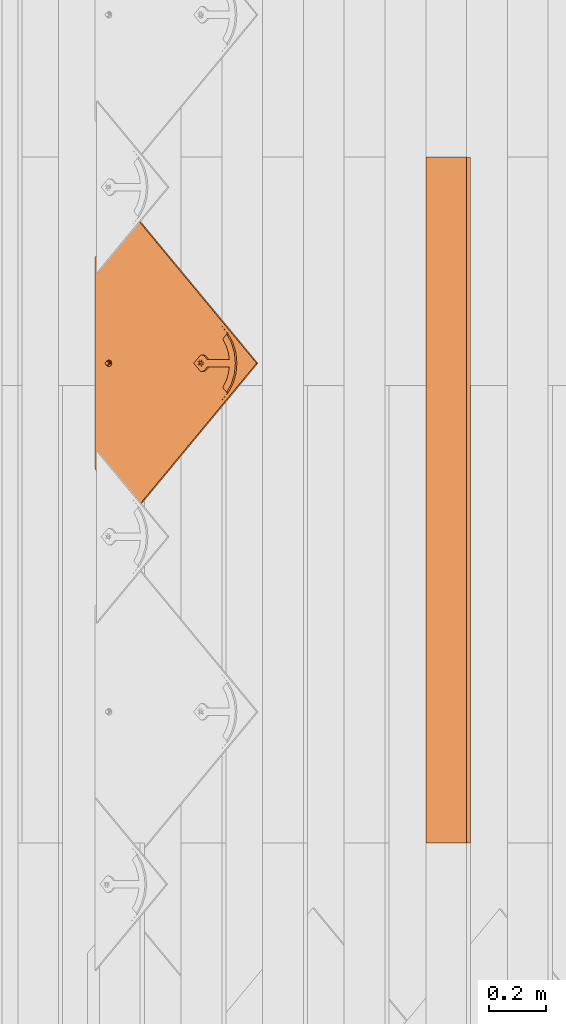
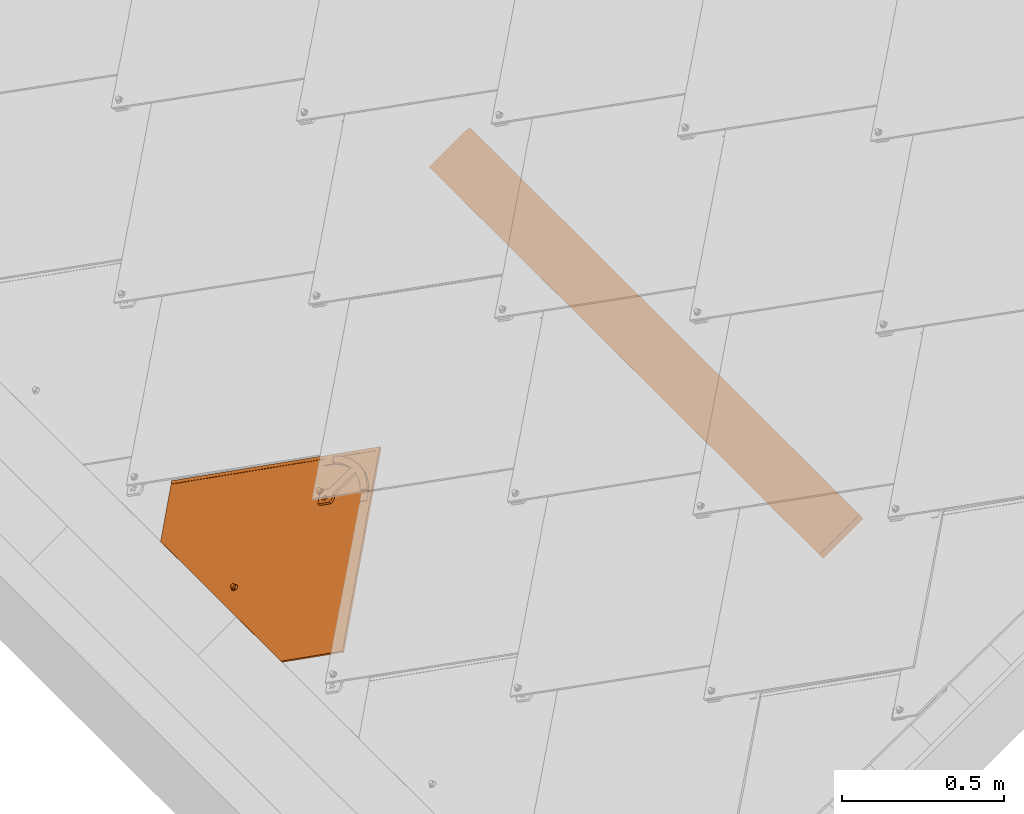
# One storey, part 20 of 133: 2 proxies, 1 element without a shape of its own.
"""IFC2X3 building model written with IfcOpenShell, lengths in millimetres."""

from ifc_helpers import new_model, entity, si_unit, converted_unit, derived_unit, direction, frame, frame_2d, origin, place, context, subcontext, project, spatial, rectangle, extrude, faceted_brep, source, transform, mapped, material, material_list, type_object, type_shapes, element, aggregate, save


model = new_model("IFC2X3")

# Units and contexts
model_context = context("Model", 3, precision=0.01, world=origin(), true_north=direction((6.12303176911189e-17, 1.0)))
body_context = subcontext(model_context, "Body", "Model", "MODEL_VIEW")
ifc_project = project(units=[si_unit("LENGTHUNIT", "METRE", prefix="MILLI"), si_unit("AREAUNIT", "SQUARE_METRE"), si_unit("VOLUMEUNIT", "CUBIC_METRE"), converted_unit("PLANEANGLEUNIT", "DEGREE", entity("IfcRatioMeasure", 0.0174532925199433), si_unit("PLANEANGLEUNIT", "RADIAN"), dimensions=[0, 0, 0, 0, 0, 0, 0]), si_unit("MASSUNIT", "GRAM", prefix="KILO"), derived_unit("MASSDENSITYUNIT", [(si_unit("MASSUNIT", "GRAM", prefix="KILO"), 1), (si_unit("LENGTHUNIT", "METRE"), -3)]), si_unit("TIMEUNIT", "SECOND"), si_unit("FREQUENCYUNIT", "HERTZ"), si_unit("THERMODYNAMICTEMPERATUREUNIT", "DEGREE_CELSIUS"), derived_unit("THERMALTRANSMITTANCEUNIT", [(si_unit("MASSUNIT", "GRAM", prefix="KILO"), 1), (si_unit("THERMODYNAMICTEMPERATUREUNIT", "KELVIN"), -1), (si_unit("TIMEUNIT", "SECOND"), -3)]), derived_unit("VOLUMETRICFLOWRATEUNIT", [(si_unit("LENGTHUNIT", "METRE"), 3), (si_unit("TIMEUNIT", "SECOND"), -1)]), si_unit("ELECTRICCURRENTUNIT", "AMPERE"), si_unit("ELECTRICVOLTAGEUNIT", "VOLT"), si_unit("POWERUNIT", "WATT"), si_unit("FORCEUNIT", "NEWTON", prefix="KILO"), si_unit("ILLUMINANCEUNIT", "LUX"), si_unit("LUMINOUSFLUXUNIT", "LUMEN"), si_unit("LUMINOUSINTENSITYUNIT", "CANDELA"), derived_unit("USERDEFINED", [(si_unit("MASSUNIT", "GRAM", prefix="KILO"), -1), (si_unit("LENGTHUNIT", "METRE"), -2), (si_unit("TIMEUNIT", "SECOND"), 3), (si_unit("LUMINOUSFLUXUNIT", "LUMEN"), 1)]), derived_unit("LINEARVELOCITYUNIT", [(si_unit("LENGTHUNIT", "METRE"), 1), (si_unit("TIMEUNIT", "SECOND"), -1)]), si_unit("PRESSUREUNIT", "PASCAL"), derived_unit("USERDEFINED", [(si_unit("LENGTHUNIT", "METRE"), -2), (si_unit("MASSUNIT", "GRAM", prefix="KILO"), 1), (si_unit("TIMEUNIT", "SECOND"), -2)])], contexts=[model_context])

# Site, building, storey
site_placement = place(None, origin())
site = spatial("IfcSite", under=ifc_project, at=site_placement, Name="Default", CompositionType="ELEMENT")
building_placement = place(site_placement, origin())
building = spatial("IfcBuilding", under=site, at=building_placement, CompositionType="ELEMENT")
storey_placement = place(building_placement, origin())
storey = spatial("IfcBuildingStorey", under=building, at=storey_placement, Name="Level 1", CompositionType="ELEMENT", Elevation=0.0)

# Assembly, proxy
assembly_placement = place(storey_placement, origin())
assembly = element("IfcElementAssembly", 1, at=assembly_placement, inside=storey, Name="Structural Framing Assembly:Roof Construction Assembly", ObjectType="Structural Framing Assembly:Roof Construction Assembly", AssemblyPlace="NOTDEFINED", PredefinedType="USERDEFINED")
ifc_material_1 = material(Name="Wood - Generic - Wood For Showcase")
building_element_proxy_type_1 = type_object("IfcBuildingElementProxyType", Name="Structural Framing 15", PredefinedType="NOTDEFINED", material=ifc_material_1)
shared_shape_1 = source(origin(), body_context, "Body", "SweptSolid", [
    extrude(rectangle(XDim=24.9999999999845, YDim=174.344679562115, at=frame_2d((-1.77635683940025e-13, -4.54747350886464e-13), x_axis=(0.0, 1.0))), frame((1128.20180147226, 1525.55080214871, 2760.23940055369), z_axis=(0.0, 1.0, 0.0), x_axis=(-0.819152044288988, 0.0, -0.573576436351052)), (0.0, 0.0, 1.0), 2400.0),
])
type_shapes(building_element_proxy_type_1, [shared_shape_1])
proxy_1_placement = place(assembly_placement, frame((-2285.03681078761, -7270.0, -1600.0)))
proxy_1 = element("IfcBuildingElementProxy", 2, at=proxy_1_placement, type_object=building_element_proxy_type_1, material=ifc_material_1, Name="Structural Framing 98:Structural Framing 15", ObjectType="Structural Framing 98:Structural Framing 15", context=body_context, shape_type="MappedRepresentation", body=[
    mapped(shared_shape_1, transform((0.0, 0.0, 0.0), scale=1.0)),
])
aggregate(assembly, [proxy_1])

# Proxy
ifc_material_2 = material(Name="Rubber - Sunstyle - Black")
ifc_material_3 = material(Name="Glass - Sunstyle - Tainted Black")
ifc_material_list_1 = material_list([ifc_material_2, ifc_material_3])
ifc_material_list_2 = material_list([ifc_material_2, ifc_material_3])
building_element_proxy_type_2 = type_object("IfcBuildingElementProxyType", Name="Shingle Bottom - Black", PredefinedType="NOTDEFINED", material=ifc_material_list_2)
shared_shape_2 = source(origin(), body_context, "Body", "Brep", [
    faceted_brep([(0.0, -1.79273515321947, -4.01619789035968), (-5.7742028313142, -5.12600528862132, -3.96037390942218), (-5.77420283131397, -4.75769619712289, 18.0314954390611), (0.0, -1.42442606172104, 17.9756714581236), (-5.77420283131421, -11.792545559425, -3.84872594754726), (-5.77420283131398, -11.4242364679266, 18.143143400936), (0.0, -15.1258156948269, -3.79290196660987), (0.0, -14.7575066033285, 18.1989673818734), (5.77420283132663, -11.7925455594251, -3.84872594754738), (5.77420283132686, -11.4242364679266, 18.1431434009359), (5.77420283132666, -5.12600528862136, -3.96037390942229), (5.77420283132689, -4.75769619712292, 18.031495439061), (-8.60370416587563, -16.6934641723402, 18.2313898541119), (0.0, -20.2567354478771, 18.2910657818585), (-12.1674751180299, -8.09096633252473, 18.0873194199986), (-8.60370416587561, 0.511531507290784, 17.9432489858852), (0.0, 4.07480278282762, 17.8835730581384), (8.60370416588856, 0.511531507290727, 17.9432489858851), (12.1674751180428, -8.09096633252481, 18.0873194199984), (8.60370416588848, -16.6934641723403, 18.2313898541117), (-11.4302228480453, -6.71737066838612, 20.4858706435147), (-9.77051349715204, -8.02009729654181, 22.3189355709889), (0.0, -0.706876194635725, 22.9603444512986), (0.0, 0.533621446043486, 22.3799978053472), (0.0, 2.69117229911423, 21.3706227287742), (-6.32324569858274, -4.35709193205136, 23.021476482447), (-6.32324569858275, -11.6575234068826, 23.1437405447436), (0.0, -18.7571148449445, 21.7298281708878), (0.0, -15.3077391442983, 23.2048725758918), (10.9851748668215, -11.808022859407, 20.3827540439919), (10.123850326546, -8.02413622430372, 22.0777687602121), (6.32324569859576, -4.3570919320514, 23.0214764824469), (6.32324569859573, -11.6575234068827, 23.1437405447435), (-6.32324569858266, -11.5234949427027, 31.146628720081), (0.0, -15.1737106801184, 31.2077607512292), (0.0, -7.8732792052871, 31.0854966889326), (-6.32324569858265, -4.22306346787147, 31.0243646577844), (6.32324569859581, -11.5234949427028, 31.1466287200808), (6.32324569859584, -4.22306346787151, 31.0243646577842), (0.0, -0.57284773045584, 30.963232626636), (0.0, -8.45927542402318, -3.90454992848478)], [[[0, 1, 2, 3]], [[1, 4, 5, 2]], [[4, 6, 7, 5]], [[6, 8, 9, 7]], [[8, 10, 11, 9]], [[10, 0, 3, 11]], [[12, 7, 13]], [[7, 12, 5]], [[14, 5, 12]], [[5, 14, 2]], [[15, 2, 14]], [[3, 2, 15]], [[15, 16, 3]], [[16, 17, 3]], [[11, 3, 17]], [[11, 17, 18]], [[9, 11, 18]], [[18, 19, 9]], [[7, 9, 19]], [[19, 13, 7]], [[15, 20, 16]], [[21, 22, 23, 24]], [[22, 21, 25]], [[20, 14, 12]], [[15, 14, 20]], [[25, 21, 26]], [[20, 24, 16]], [[12, 13, 27]], [[12, 27, 20]], [[21, 28, 26]], [[21, 27, 28]], [[20, 21, 24]], [[20, 27, 21]], [[19, 29, 13]], [[30, 23, 31]], [[30, 28, 27]], [[24, 23, 30]], [[29, 27, 13]], [[19, 18, 29]], [[29, 30, 27]], [[29, 17, 24]], [[24, 17, 16]], [[31, 32, 30]], [[23, 22, 31]], [[28, 30, 32]], [[29, 24, 30]], [[29, 18, 17]], [[33, 34, 35]], [[35, 36, 33]], [[34, 37, 35]], [[38, 35, 37]], [[35, 38, 39]], [[35, 39, 36]], [[40, 6, 4]], [[4, 1, 40]], [[1, 0, 40]], [[40, 8, 6]], [[0, 10, 40]], [[8, 40, 10]], [[22, 25, 36, 39]], [[25, 26, 33, 36]], [[26, 28, 34, 33]], [[28, 32, 37, 34]], [[32, 31, 38, 37]], [[31, 22, 39, 38]]]),
    faceted_brep([(0.0, 372.824876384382, 20.3195200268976), (0.0, 377.324245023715, 20.2441667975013), (-8.60370416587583, 376.388147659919, 20.2598440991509), (8.60370416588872, 376.388147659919, 20.2598440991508), (6.64022859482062, 381.157445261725, 20.1799702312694), (12.1674751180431, 384.990645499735, 20.1157736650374), (6.64022859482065, 388.823845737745, 20.0515770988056), (8.6037041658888, 393.59314333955, 19.9717032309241), (0.0, 392.657045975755, 19.9873805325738), (0.0, 397.156414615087, 19.9120273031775), (-8.60370416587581, 393.59314333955, 19.9717032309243), (-6.64022859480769, 388.823845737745, 20.0515770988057), (-12.1674751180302, 384.990645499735, 20.1157736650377), (-6.6402285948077, 381.157445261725, 20.1799702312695), (-6.6402282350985, 388.555922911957, 4.05382046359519), (0.0, 392.389122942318, 3.98962390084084), (-6.64022823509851, 380.889522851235, 4.18221358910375), (0.0, 377.056322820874, 4.24641015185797), (6.64022823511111, 380.889522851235, 4.18221358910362), (6.64022823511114, 388.555922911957, 4.05382046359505), (-8.603704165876, 376.12022504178, 4.26208746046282), (0.0, 372.556953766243, 4.32176338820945), (-12.1674751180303, 384.722722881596, 4.11801702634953), (-8.60370416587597, 393.325220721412, 3.97394659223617), (0.0, 396.888491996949, 3.91427066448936), (8.60370416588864, 393.325220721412, 3.97394659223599), (12.1674751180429, 384.722722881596, 4.11801702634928), (8.60370416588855, 376.12022504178, 4.26208746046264)], [[[0, 1, 2]], [[1, 0, 3]], [[3, 4, 1]], [[4, 3, 5]], [[6, 4, 5]], [[5, 7, 6]], [[7, 8, 6]], [[8, 7, 9]], [[8, 9, 10]], [[10, 11, 8]], [[12, 11, 10]], [[2, 13, 12]], [[12, 13, 11]], [[13, 2, 1]], [[8, 11, 14, 15]], [[11, 13, 16, 14]], [[13, 1, 17, 16]], [[1, 4, 18, 17]], [[4, 6, 19, 18]], [[6, 8, 15, 19]], [[20, 17, 21]], [[17, 20, 16]], [[22, 16, 20]], [[14, 16, 22]], [[23, 14, 22]], [[15, 14, 23]], [[23, 24, 15]], [[24, 25, 15]], [[19, 15, 25]], [[19, 25, 26]], [[26, 18, 19]], [[26, 27, 18]], [[17, 18, 27]], [[27, 21, 17]], [[24, 23, 10, 9]], [[10, 23, 22, 12]], [[20, 21, 0, 2]], [[20, 2, 12, 22]], [[21, 27, 3, 0]], [[3, 27, 26, 5]], [[25, 24, 9, 7]], [[25, 7, 5, 26]]]),
    faceted_brep([(518.247351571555, 79.9143812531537, 14.965257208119), (526.732038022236, 88.3990677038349, 14.8231598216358), (526.732038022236, 88.4241854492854, 16.3229495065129), (518.247351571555, 79.9394989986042, 16.4650468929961), (0.000322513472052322, 598.016093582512, 6.28834266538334), (-518.246706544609, 79.9143812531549, 14.9652572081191), (-526.73139299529, 88.3990677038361, 14.8231598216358), (0.000322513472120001, 614.983087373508, 6.00418773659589), (0.000322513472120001, 615.008205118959, 7.50397742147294), (-526.731392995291, 88.4241854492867, 16.3229495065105), (-518.246706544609, 79.9394989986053, 16.465046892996), (0.000322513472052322, 598.041211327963, 7.78813235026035)], [[[0, 1, 2, 3]], [[1, 0, 4, 5, 6, 7]], [[2, 1, 7, 8]], [[3, 2, 8, 9, 10, 11]], [[0, 3, 11, 4]], [[5, 10, 9, 6]], [[8, 7, 6, 9]], [[4, 11, 10, 5]]]),
    faceted_brep([(0.00032251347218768, 614.983087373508, 6.00418773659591), (-2.87802047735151, 396.187349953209, 9.66847193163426), (0.227808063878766, 396.596182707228, 9.6616250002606), (-5.77219193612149, 394.988712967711, 9.68854611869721), (3.3336366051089, 396.187349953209, 9.66847193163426), (6.22780806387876, 394.988712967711, 9.6885461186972), (8.71308943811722, 393.081956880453, 9.72047953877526), (10.620112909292, 390.59702396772, 9.76209598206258), (-8.25747331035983, 393.081956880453, 9.72047953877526), (-10.1644967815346, 390.59702396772, 9.76209598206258), (-11.3633018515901, 387.703258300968, 9.81055935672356), (-526.731392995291, 88.3990677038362, 14.8231598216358), (11.8189179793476, 387.703258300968, 9.81055935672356), (526.732038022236, 88.3990677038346, 14.8231598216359), (-11.7721919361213, 384.597865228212, 9.86256696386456), (-11.3633018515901, 381.492472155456, 9.91457457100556), (-10.1644967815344, 378.598706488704, 9.96303794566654), (-370.355016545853, -67.9334607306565, 17.4413406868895), (-8.25747331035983, 376.113773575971, 10.0046543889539), (-5.65685424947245, -2.29422365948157, 16.3420467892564), (-6.92820323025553, -3.95084560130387, 16.3697910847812), (-7.72740661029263, -5.88002271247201, 16.4021000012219), (-8.0, -7.95028476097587, 16.4367717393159), (-7.72740661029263, -10.0205468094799, 16.4714434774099), (-6.9282032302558, -11.9497239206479, 16.5037523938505), (-5.65685424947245, -13.6063458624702, 16.5314966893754), (-4.0, -14.8775165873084, 16.5527856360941), (-2.07055236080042, -15.676607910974, 16.5661684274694), (0.0, -15.9491630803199, 16.5707330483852), (370.355661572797, -67.9334607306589, 17.4413406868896), (10.620112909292, 378.598706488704, 9.96303794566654), (8.71308943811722, 376.11377357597, 10.0046543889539), (5.65685424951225, -2.29422365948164, 16.3420467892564), (6.92820323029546, -3.9508456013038, 16.3697910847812), (7.72740661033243, -5.88002271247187, 16.4021000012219), (8.0, -7.9502847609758, 16.4367717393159), (7.72740661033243, -10.0205468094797, 16.4714434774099), (6.92820323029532, -11.9497239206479, 16.5037523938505), (5.65685424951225, -13.6063458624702, 16.5314966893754), (4.0, -14.8775165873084, 16.5527856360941), (2.07055236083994, -15.676607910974, 16.5661684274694), (-5.77219193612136, 374.207017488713, 10.0365878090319), (-4.0, -1.02305293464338, 16.3207578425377), (-2.87802047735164, 373.008380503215, 10.0566619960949), (-2.07055236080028, -0.223961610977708, 16.3073750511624), (0.227808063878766, 372.599547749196, 10.0635089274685), (0.0, 0.0485935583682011, 16.3028104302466), (2.07055236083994, -0.223961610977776, 16.3073750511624), (3.3336366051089, 373.008380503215, 10.0566619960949), (4.0, -1.02305293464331, 16.3207578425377), (6.22780806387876, 374.207017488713, 10.0365878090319), (12.2278080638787, 384.597865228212, 9.86256696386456), (11.8189179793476, 381.492472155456, 9.91457457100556), (-370.355016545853, -68.059049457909, 9.94239226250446), (-6.92820323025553, -4.07643432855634, 8.87084266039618), (-7.72740661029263, -6.00561143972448, 8.90315157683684), (-8.0, -8.07587348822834, 8.93782331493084), (-7.72740661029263, -10.1461355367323, 8.97249505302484), (-6.9282032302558, -12.0753126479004, 9.00480396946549), (-5.65685424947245, -13.7319345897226, 9.03254826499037), (-5.65685424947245, -2.41981238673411, 8.8430983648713), (-8.25747331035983, 375.988184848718, 2.50570596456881), (-4.0, -15.0031053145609, 9.05383721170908), (-2.07055236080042, -15.8021966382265, 9.06722000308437), (0.0, -16.0747518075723, 9.07178462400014), (370.355661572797, -68.0590494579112, 9.9423922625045), (-10.1644967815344, 378.473117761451, 2.46408952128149), (-526.731392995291, 88.2734789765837, 7.32421139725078), (-11.3633018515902, 381.366883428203, 2.41562614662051), (-11.7721919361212, 384.472276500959, 2.36361853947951), (-11.3633018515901, 387.577669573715, 2.3116109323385), (0.00032251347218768, 614.857498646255, -1.49476068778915), (-10.1644967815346, 390.471435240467, 2.26314755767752), (-8.25747331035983, 392.956368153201, 2.22153111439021), (-5.77219193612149, 394.863124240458, 2.18959769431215), (-2.87802047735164, 396.061761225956, 2.16952350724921), (0.227808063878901, 396.470593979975, 2.16267657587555), (3.3336366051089, 396.061761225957, 2.1695235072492), (6.22780806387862, 394.863124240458, 2.18959769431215), (8.71308943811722, 392.956368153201, 2.2215311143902), (10.620112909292, 390.471435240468, 2.26314755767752), (11.8189179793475, 387.577669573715, 2.31161093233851), (526.732038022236, 88.2734789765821, 7.32421139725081), (12.2278080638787, 384.472276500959, 2.3636185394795), (10.620112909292, 378.473117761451, 2.46408952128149), (11.8189179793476, 381.366883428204, 2.41562614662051), (-5.77219193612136, 374.08142876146, 2.53763938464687), (-4.0, -1.14864166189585, 8.8218094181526), (-2.87802047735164, 372.882791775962, 2.55771357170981), (-2.07055236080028, -0.349550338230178, 8.8084266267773), (0.227808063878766, 372.473959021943, 2.56456050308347), (0.0, -0.0769951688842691, 8.80386200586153), (2.07055236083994, -0.349550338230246, 8.8084266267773), (3.3336366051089, 372.882791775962, 2.55771357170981), (4.0, -1.14864166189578, 8.8218094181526), (6.22780806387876, 374.081428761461, 2.53763938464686), (5.65685424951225, -2.41981238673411, 8.8430983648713), (8.71308943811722, 375.988184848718, 2.50570596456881), (6.92820323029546, -4.07643432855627, 8.87084266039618), (7.72740661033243, -6.00561143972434, 8.90315157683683), (8.0, -8.07587348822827, 8.93782331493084), (7.72740661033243, -10.1461355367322, 8.97249505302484), (6.92820323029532, -12.0753126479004, 9.00480396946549), (5.65685424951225, -13.7319345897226, 9.03254826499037), (4.0, -15.0031053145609, 9.05383721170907), (2.07055236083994, -15.8021966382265, 9.06722000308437)], [[[0, 1, 2]], [[1, 0, 3]], [[0, 2, 4]], [[4, 5, 0]], [[5, 6, 0]], [[0, 6, 7]], [[8, 3, 0]], [[9, 8, 0]], [[9, 0, 10]], [[10, 0, 11]], [[12, 0, 7]], [[12, 13, 0]], [[11, 14, 10]], [[14, 11, 15]], [[16, 15, 11]], [[11, 17, 16]], [[16, 17, 18]], [[19, 18, 17]], [[19, 17, 20]], [[20, 17, 21]], [[22, 21, 17]], [[22, 17, 23]], [[24, 23, 17]], [[17, 25, 24]], [[26, 25, 17]], [[27, 26, 17]], [[17, 28, 27]], [[28, 17, 29]], [[29, 13, 30]], [[29, 30, 31]], [[29, 31, 32]], [[32, 33, 29]], [[33, 34, 29]], [[35, 29, 34]], [[29, 35, 36]], [[36, 37, 29]], [[29, 37, 38]], [[38, 39, 29]], [[40, 28, 29]], [[39, 40, 29]], [[41, 18, 19]], [[42, 41, 19]], [[42, 43, 41]], [[44, 43, 42]], [[44, 45, 43]], [[46, 45, 44]], [[47, 45, 46]], [[48, 45, 47]], [[49, 48, 47]], [[49, 50, 48]], [[32, 50, 49]], [[32, 31, 50]], [[12, 51, 13]], [[52, 13, 51]], [[13, 52, 30]], [[53, 54, 55]], [[53, 55, 56]], [[56, 57, 53]], [[57, 58, 53]], [[53, 58, 59]], [[60, 54, 53]], [[61, 60, 53]], [[59, 62, 53]], [[62, 63, 53]], [[63, 64, 53]], [[53, 64, 65]], [[66, 61, 53]], [[66, 53, 67]], [[68, 66, 67]], [[69, 68, 67]], [[69, 67, 70]], [[67, 71, 70]], [[72, 70, 71]], [[73, 72, 71]], [[71, 74, 73]], [[74, 71, 75]], [[75, 71, 76]], [[77, 76, 71]], [[77, 71, 78]], [[79, 78, 71]], [[71, 80, 79]], [[80, 71, 81]], [[71, 82, 81]], [[83, 81, 82]], [[84, 82, 65]], [[85, 82, 84]], [[82, 85, 83]], [[86, 60, 61]], [[86, 87, 60]], [[88, 87, 86]], [[89, 87, 88]], [[90, 89, 88]], [[90, 91, 89]], [[92, 91, 90]], [[92, 90, 93]], [[94, 92, 93]], [[93, 95, 94]], [[94, 95, 96]], [[97, 96, 95]], [[96, 97, 65]], [[84, 65, 97]], [[98, 96, 65]], [[99, 98, 65]], [[99, 65, 100]], [[101, 100, 65]], [[102, 101, 65]], [[103, 102, 65]], [[104, 103, 65]], [[105, 104, 65]], [[65, 64, 105]], [[11, 0, 71, 67]], [[17, 11, 67, 53]], [[13, 29, 65, 82]], [[0, 13, 82, 71]], [[22, 56, 55, 21]], [[21, 55, 54, 20]], [[42, 19, 60, 87]], [[60, 19, 20, 54]], [[44, 42, 87, 89]], [[44, 89, 91, 46]], [[46, 91, 92, 47]], [[47, 92, 94, 49]], [[33, 32, 96, 98]], [[96, 32, 49, 94]], [[34, 33, 98, 99]], [[34, 99, 100, 35]], [[35, 100, 101, 36]], [[36, 101, 102, 37]], [[39, 38, 103, 104]], [[103, 38, 37, 102]], [[40, 39, 104, 105]], [[40, 105, 64, 28]], [[28, 64, 63, 27]], [[27, 63, 62, 26]], [[24, 25, 59, 58]], [[59, 25, 26, 62]], [[23, 24, 58, 57]], [[23, 57, 56, 22]], [[14, 69, 70, 10]], [[10, 70, 72, 9]], [[3, 8, 73, 74]], [[73, 8, 9, 72]], [[1, 3, 74, 75]], [[1, 75, 76, 2]], [[2, 76, 77, 4]], [[4, 77, 78, 5]], [[7, 6, 79, 80]], [[79, 6, 5, 78]], [[12, 7, 80, 81]], [[12, 81, 83, 51]], [[51, 83, 85, 52]], [[52, 85, 84, 30]], [[50, 31, 97, 95]], [[97, 31, 30, 84]], [[48, 50, 95, 93]], [[48, 93, 90, 45]], [[45, 90, 88, 43]], [[43, 88, 86, 41]], [[16, 18, 61, 66]], [[41, 86, 61, 18]], [[68, 15, 16, 66]], [[15, 68, 69, 14]], [[29, 17, 53, 65]]]),
    faceted_brep([(-111.269043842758, 451.472531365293, 11.2429332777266), (-84.9443960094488, 477.793488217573, 10.8021227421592), (-102.027571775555, 494.874268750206, 10.5160621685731), (-108.279973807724, 489.512620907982, 10.6058564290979), (-114.2509690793, 483.839345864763, 10.7008696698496), (-128.946713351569, 469.147722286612, 10.9469178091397), (128.946713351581, 469.147722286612, 10.9469178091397), (114.250969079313, 483.839345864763, 10.7008696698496), (108.279973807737, 489.512620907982, 10.6058564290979), (102.027571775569, 494.874268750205, 10.5160621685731), (84.9431983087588, 477.794685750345, 10.802102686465), (111.269043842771, 451.472531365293, 11.2429332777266), (-8.48528137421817, 393.302959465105, 19.7181805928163), (-18.7041061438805, 407.484939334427, 19.4806677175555), (-23.2046504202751, 402.851933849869, 19.5582590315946), (-10.3923048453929, 390.818026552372, 19.7597970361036), (-6.0, 395.209715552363, 19.6862471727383), (-13.2999999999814, 411.02298750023, 19.4214142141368), (-3.10582854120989, 396.408352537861, 19.6661729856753), (0.0, 396.81718529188, 19.6593260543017), (13.3000000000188, 411.022987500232, 19.4214142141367), (3.10582854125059, 396.408352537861, 19.6661729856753), (6.0, 395.209715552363, 19.6862471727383), (18.7041061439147, 407.484939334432, 19.4806677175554), (8.48528137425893, 393.302959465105, 19.7181805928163), (23.2046504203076, 402.85193384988, 19.5582590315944), (10.3923048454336, 390.818026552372, 19.7597970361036), (26.5842195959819, 397.347783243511, 19.6504398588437), (11.5911099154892, 387.92426088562, 19.8082604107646), (28.6795527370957, 391.238383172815, 19.752757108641), (12.0, 384.818867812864, 19.8602680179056), (29.3894280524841, 384.818867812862, 19.8602680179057), (11.5911099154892, 381.713474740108, 19.9122756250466), (10.3923048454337, 378.819709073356, 19.9607389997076), (8.48528137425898, 376.334776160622, 20.0023554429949), (0.0, 355.433560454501, 20.3523987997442), (6.0, 374.428020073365, 20.034288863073), (3.10582854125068, 373.229383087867, 20.0543630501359), (0.0, 372.820550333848, 20.0612099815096), (-3.10582854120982, 373.229383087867, 20.0543630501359), (-6.0, 374.428020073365, 20.034288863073), (-8.48528137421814, 376.334776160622, 20.0023554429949), (-29.3894280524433, 384.818867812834, 19.8602680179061), (-10.3923048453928, 378.819709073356, 19.9607389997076), (-11.5911099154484, 381.713474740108, 19.9122756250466), (-12.0, 384.818867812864, 19.8602680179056), (-28.67955273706, 391.238383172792, 19.7527571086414), (-11.5911099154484, 387.92426088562, 19.8082604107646), (-26.5842195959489, 397.347783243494, 19.650439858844), (-13.2999999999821, 505.810987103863, 17.833951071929), (13.3000000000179, 505.810987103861, 17.833951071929), (0.0, 531.282600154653, 17.4073649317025), (36.4908407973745, 527.108634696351, 17.4772684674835), (38.7697427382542, 500.996106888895, 17.9145883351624), (71.096085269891, 514.802420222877, 17.6833669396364), (62.9243331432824, 491.592473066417, 18.0720758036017), (102.027571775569, 494.999857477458, 18.0150105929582), (84.9443960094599, 477.919076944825, 18.3010711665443), (-36.4908407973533, 527.108634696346, 17.4772684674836), (-38.7697427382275, 500.996106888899, 17.9145883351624), (-71.0960852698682, 514.802420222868, 17.6833669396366), (-62.9243331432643, 491.592473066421, 18.0720758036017), (-102.027571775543, 494.999857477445, 18.0150105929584), (-84.9443960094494, 477.919076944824, 18.3010711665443), (0.0, 355.266108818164, 10.3538009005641), (0.0, 372.653098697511, 10.0626120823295), (3.10582854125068, 373.06193145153, 10.0557651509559), (-3.10582854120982, 373.06193145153, 10.0557651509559), (6.0, 374.260568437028, 10.0356909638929), (8.48528137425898, 376.167324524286, 10.0037575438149), (29.3894280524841, 384.651416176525, 9.86167011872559), (-6.0, 374.260568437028, 10.0356909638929), (-8.48528137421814, 376.167324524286, 10.0037575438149), (-29.3894280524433, 384.651416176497, 9.86167011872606), (-10.3923048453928, 378.652257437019, 9.96214110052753), (-11.5911099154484, 381.546023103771, 9.91367772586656), (-12.0, 384.651416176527, 9.86167011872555), (-28.67955273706, 391.070931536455, 9.75415920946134), (-11.5911099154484, 387.756809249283, 9.80966251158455), (-26.5842195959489, 397.180331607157, 9.65184195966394), (-10.3923048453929, 390.650574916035, 9.76119913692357), (-23.2046504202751, 402.684482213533, 9.5596611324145), (-8.48528137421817, 393.135507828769, 9.71958269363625), (-18.7041061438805, 407.31748769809, 9.48206981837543), (-6.0, 395.042263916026, 9.6876492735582), (-13.2999999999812, 410.855535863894, 9.4228163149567), (-3.10582854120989, 396.240900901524, 9.66757508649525), (0.0, 396.649733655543, 9.66072815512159), (13.3000000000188, 410.855535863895, 9.42281631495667), (-13.2999999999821, 505.643535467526, 7.83535317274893), (13.3000000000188, 505.643535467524, 7.83535317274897), (0.0, 531.115148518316, 7.4087670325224), (-36.4908407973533, 526.94118306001, 7.47867056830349), (-38.7697427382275, 500.828655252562, 7.91599043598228), (-71.0960852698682, 514.634968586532, 7.68476904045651), (-62.9243331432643, 491.425021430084, 8.07347790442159), (-102.027571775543, 494.832405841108, 8.01641269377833), (-84.9431983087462, 477.752822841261, 8.30245321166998), (-108.279973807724, 489.470757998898, 8.10620695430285), (-114.2509690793, 483.79748295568, 8.2012201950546), (-111.269043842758, 451.430668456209, 8.74328380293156), (-128.946713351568, 469.105859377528, 8.44726833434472), (36.4908407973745, 526.941183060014, 7.47867056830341), (38.7697427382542, 500.828655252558, 7.91599043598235), (71.096085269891, 514.634968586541, 7.68476904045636), (62.9243331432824, 491.425021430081, 8.07347790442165), (102.027571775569, 494.832405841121, 8.01641269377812), (84.9443960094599, 477.751625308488, 8.30247326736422), (108.279973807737, 489.470757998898, 8.10620695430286), (114.250969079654, 483.797482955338, 8.20122019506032), (111.269043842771, 451.430668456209, 8.74328380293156), (128.946713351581, 469.105859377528, 8.44726833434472), (3.10582854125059, 396.240900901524, 9.66757508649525), (6.0, 395.042263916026, 9.6876492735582), (18.7041061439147, 407.317487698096, 9.48206981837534), (8.48528137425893, 393.135507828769, 9.71958269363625), (23.2046504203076, 402.684482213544, 9.55966113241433), (10.3923048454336, 390.650574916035, 9.76119913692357), (26.5842195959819, 397.180331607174, 9.65184195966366), (11.5911099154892, 387.756809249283, 9.80966251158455), (28.6795527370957, 391.070931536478, 9.75415920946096), (12.0, 384.651416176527, 9.86167011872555), (11.5911099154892, 381.546023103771, 9.91367772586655), (10.3923048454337, 378.652257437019, 9.96214110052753)], [[[0, 1, 2, 3, 4, 5]], [[6, 7, 8, 9, 10, 11]], [[12, 13, 14]], [[15, 12, 14]], [[16, 13, 12]], [[13, 16, 17]], [[17, 16, 18]], [[18, 19, 17]], [[20, 17, 19]], [[19, 21, 20]], [[22, 20, 21]], [[22, 23, 20]], [[22, 24, 23]], [[25, 23, 24]], [[26, 25, 24]], [[25, 26, 27]], [[26, 28, 27]], [[29, 27, 28]], [[28, 30, 29]], [[31, 29, 30]], [[30, 32, 31]], [[32, 33, 31]], [[31, 33, 34]], [[34, 35, 31]], [[34, 36, 35]], [[37, 35, 36]], [[38, 35, 37]], [[35, 38, 39]], [[40, 35, 39]], [[40, 41, 35]], [[42, 35, 41]], [[43, 42, 41]], [[43, 44, 42]], [[44, 45, 42]], [[45, 46, 42]], [[46, 45, 47]], [[48, 46, 47]], [[47, 15, 48]], [[48, 15, 14]], [[20, 49, 17]], [[49, 20, 50]], [[51, 49, 50]], [[50, 52, 51]], [[53, 52, 50]], [[52, 53, 54]], [[55, 54, 53]], [[54, 55, 56]], [[55, 57, 56]], [[58, 49, 51]], [[49, 58, 59]], [[60, 59, 58]], [[60, 61, 59]], [[61, 60, 62]], [[61, 62, 63]], [[64, 65, 66]], [[65, 64, 67]], [[64, 66, 68]], [[68, 69, 64]], [[64, 69, 70]], [[71, 67, 64]], [[71, 64, 72]], [[72, 64, 73]], [[73, 74, 72]], [[74, 73, 75]], [[76, 75, 73]], [[77, 76, 73]], [[76, 77, 78]], [[78, 77, 79]], [[80, 78, 79]], [[81, 80, 79]], [[82, 80, 81]], [[81, 83, 82]], [[83, 84, 82]], [[84, 83, 85]], [[85, 86, 84]], [[87, 86, 85]], [[87, 85, 88]], [[88, 85, 89]], [[88, 89, 90]], [[89, 91, 90]], [[91, 89, 92]], [[93, 92, 89]], [[94, 92, 93]], [[93, 95, 94]], [[95, 96, 94]], [[97, 96, 95]], [[98, 96, 97]], [[99, 98, 97]], [[97, 100, 99]], [[101, 99, 100]], [[102, 90, 91]], [[90, 102, 103]], [[104, 103, 102]], [[103, 104, 105]], [[105, 104, 106]], [[107, 105, 106]], [[107, 106, 108]], [[109, 107, 108]], [[110, 107, 109]], [[111, 110, 109]], [[87, 88, 112]], [[113, 112, 88]], [[114, 113, 88]], [[115, 113, 114]], [[115, 114, 116]], [[116, 117, 115]], [[116, 118, 117]], [[117, 118, 119]], [[119, 118, 120]], [[121, 119, 120]], [[120, 70, 121]], [[122, 121, 70]], [[70, 69, 123]], [[123, 122, 70]], [[17, 49, 89, 85]], [[13, 17, 85, 83]], [[14, 13, 83, 81]], [[81, 79, 48, 14]], [[46, 48, 79, 77]], [[42, 46, 77, 73]], [[35, 42, 73, 64]], [[31, 35, 64, 70]], [[29, 31, 70, 120]], [[27, 29, 120, 118]], [[118, 116, 25, 27]], [[23, 25, 116, 114]], [[20, 23, 114, 88]], [[50, 20, 88, 90]], [[9, 106, 104, 54, 56]], [[52, 54, 104, 102]], [[51, 52, 102, 91]], [[58, 51, 91, 92]], [[94, 96, 2, 62, 60]], [[60, 58, 92, 94]], [[45, 76, 78, 47]], [[47, 78, 80, 15]], [[16, 12, 82, 84]], [[80, 82, 12, 15]], [[18, 16, 84, 86]], [[87, 19, 18, 86]], [[21, 112, 113, 22]], [[22, 113, 115, 24]], [[28, 26, 117, 119]], [[115, 117, 26, 24]], [[30, 28, 119, 121]], [[21, 19, 87, 112]], [[30, 121, 122, 32]], [[32, 122, 123, 33]], [[36, 34, 69, 68]], [[123, 69, 34, 33]], [[37, 36, 68, 66]], [[65, 38, 37, 66]], [[39, 67, 71, 40]], [[40, 71, 72, 41]], [[44, 43, 74, 75]], [[72, 74, 43, 41]], [[45, 44, 75, 76]], [[39, 38, 65, 67]], [[7, 6, 111, 109]], [[6, 11, 110, 111]], [[7, 109, 108, 8]], [[108, 106, 9, 8]], [[11, 10, 107, 110]], [[0, 5, 101, 100]], [[1, 0, 100, 97]], [[2, 96, 98, 3]], [[98, 99, 4, 3]], [[5, 4, 99, 101]], [[63, 62, 2, 1]], [[56, 57, 10]], [[10, 9, 56]], [[1, 95, 61, 63]], [[1, 97, 95]], [[93, 89, 49, 59]], [[95, 93, 59, 61]], [[90, 103, 53, 50]], [[103, 105, 55, 53]], [[10, 57, 55]], [[107, 10, 105]], [[55, 105, 10]]]),
])
type_shapes(building_element_proxy_type_2, [shared_shape_2])
proxy_2_placement = place(storey_placement, frame((-2327.24013143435, -4065.85485061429, 355.972593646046), z_axis=(-0.57357643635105, 0.0, 0.819152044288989), x_axis=(0.0, -1.0, 0.0)))
element("IfcBuildingElementProxy", 3, at=proxy_2_placement, inside=storey, type_object=building_element_proxy_type_2, material=ifc_material_list_1, Name="Roofing_Panels_SunStyle_Tile_Shingle-Bottom:Shingle Bottom - Black", ObjectType="Roofing_Panels_SunStyle_Tile_Shingle-Bottom:Shingle Bottom - Black", context=body_context, shape_type="MappedRepresentation", body=[
    mapped(shared_shape_2, transform((0.0, 0.0, 0.0), scale=1.0)),
])

save(model, "model.ifc")
